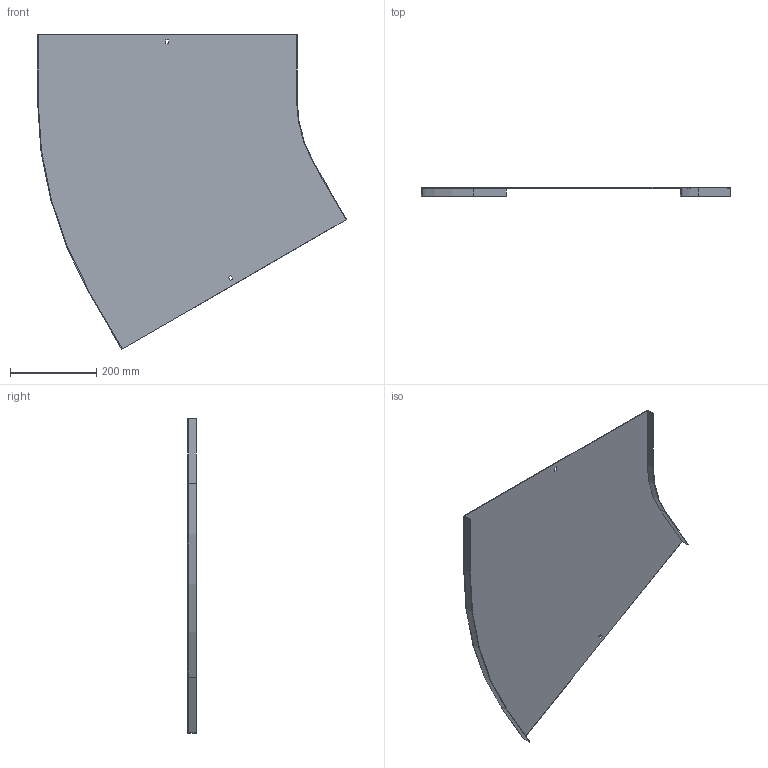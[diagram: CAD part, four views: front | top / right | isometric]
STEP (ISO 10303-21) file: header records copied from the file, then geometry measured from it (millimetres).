
FILE_DESCRIPTION (( 'STEP AP214' ), '1' );
FILE_NAME ('A2_12N3R600.step', '2025-02-21T10:49:03', ( '' ), ( '' ), 'SwSTEP 2.0', 'SolidWorks 2023', '' );
FILE_SCHEMA (( 'AUTOMOTIVE_DESIGN' ));
Length unit declared in the file: millimetre
Products named in the file (1): A2_12N3R600
Bounding box: 717.99 x 20 x 730.65 mm (x, y, z)
Volume: 589417.4 mm3; surface area: 789745.3 mm2
Topology: 1 solids, 1 shells, 26 faces, 72 edges, 48 vertices
Faces by surface type: plane 22, cylinder 4
Entity records: 855 total; most frequent: CARTESIAN_POINT 147, ORIENTED_EDGE 144, DIRECTION 134, EDGE_CURVE 72, LINE 64, VECTOR 64, VERTEX_POINT 48, AXIS2_PLACEMENT_3D 35
